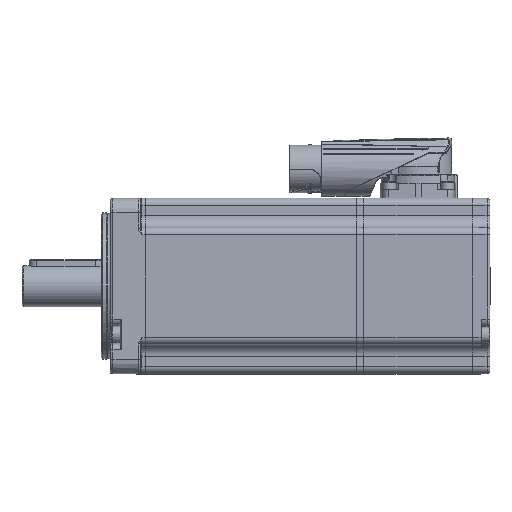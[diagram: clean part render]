
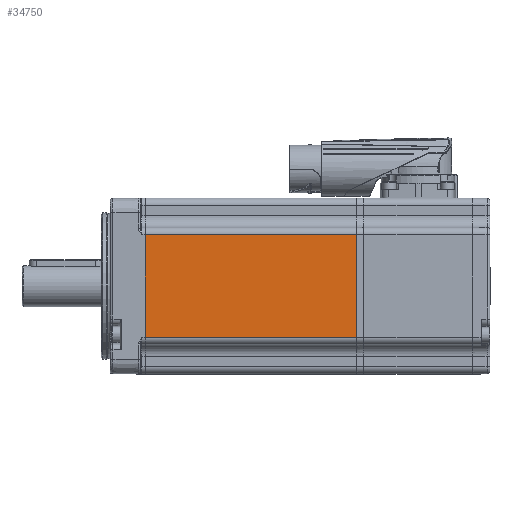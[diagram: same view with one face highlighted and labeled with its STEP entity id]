
A CAD part, left-side view. The second image highlights one B-rep face of the part: STEP entity #34750.
In plain terms, the highlighted planar face has unit normal (-1, 0, 0) as drawn and (0, 1, 0) by its records, which use the part's own axes.
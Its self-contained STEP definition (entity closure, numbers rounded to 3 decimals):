
#9584=LINE('',#60177,#11528);
#9585=LINE('',#60180,#11529);
#9586=LINE('',#60182,#11530);
#9587=LINE('',#60184,#11531);
#11528=VECTOR('',#43877,1000.);
#11529=VECTOR('',#43878,1000.);
#11530=VECTOR('',#43879,1000.);
#11531=VECTOR('',#43880,1000.);
#18341=ORIENTED_EDGE('',*,*,#23315,.T.);
#18342=ORIENTED_EDGE('',*,*,#23316,.T.);
#18343=ORIENTED_EDGE('',*,*,#23317,.T.);
#18344=ORIENTED_EDGE('',*,*,#23318,.T.);
#23315=EDGE_CURVE('',#26369,#26370,#9584,.F.);
#23316=EDGE_CURVE('',#26370,#26371,#9585,.T.);
#23317=EDGE_CURVE('',#26371,#26372,#9586,.T.);
#23318=EDGE_CURVE('',#26372,#26369,#9587,.T.);
#26369=VERTEX_POINT('',#60178);
#26370=VERTEX_POINT('',#60179);
#26371=VERTEX_POINT('',#60181);
#26372=VERTEX_POINT('',#60183);
#29772=EDGE_LOOP('',(#18341,#18342,#18343,#18344));
#32054=FACE_BOUND('',#29772,.T.);
#33256=PLANE('',#37345);
#34750=ADVANCED_FACE('',(#32054),#33256,.T.);
#37345=AXIS2_PLACEMENT_3D('',#60176,#43875,#43876);
#43875=DIRECTION('',(0.,1.,0.));
#43876=DIRECTION('',(0.,0.,1.));
#43877=DIRECTION('',(-1.,0.,0.));
#43878=DIRECTION('',(0.,0.,-1.));
#43879=DIRECTION('',(-1.,0.,0.));
#43880=DIRECTION('',(0.,0.,1.));
#60176=CARTESIAN_POINT('',(-200.,30.,-30.));
#60177=CARTESIAN_POINT('',(0.,30.,17.5));
#60178=CARTESIAN_POINT('',(-73.,30.,17.5));
#60179=CARTESIAN_POINT('',(-1.,30.,17.5));
#60180=CARTESIAN_POINT('',(-1.,30.,-30.));
#60181=CARTESIAN_POINT('',(-1.,30.,-17.5));
#60182=CARTESIAN_POINT('',(-200.,30.,-17.5));
#60183=CARTESIAN_POINT('',(-73.,30.,-17.5));
#60184=CARTESIAN_POINT('',(-73.,30.,-30.));
